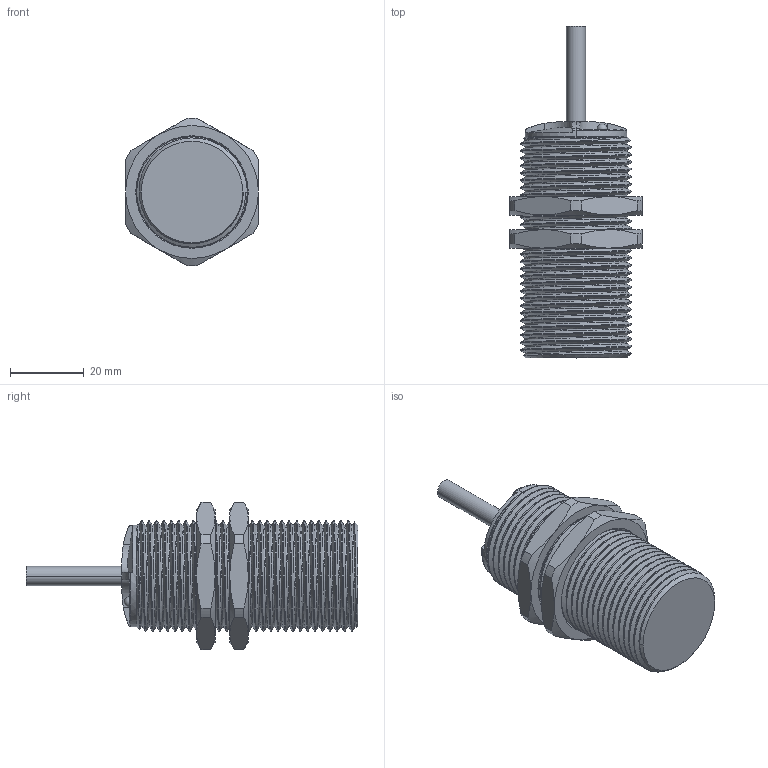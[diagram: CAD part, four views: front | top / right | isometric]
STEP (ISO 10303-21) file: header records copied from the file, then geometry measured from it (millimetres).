
FILE_DESCRIPTION (( 'STEP AP203' ), '1' );
FILE_NAME ('Bi-G30-X2-60.step', '2023-10-19T21:38:44', ( '' ), ( '' ), 'SwSTEP 2.0', 'SolidWorks 2019', '' );
FILE_SCHEMA (( 'CONFIG_CONTROL_DESIGN' ));
Length unit declared in the file: millimetre
Products named in the file (1): Bi-G30-X2-60
Bounding box: 36 x 90 x 39.99 mm (x, y, z)
Volume: 45195.7 mm3; surface area: 13193.4 mm2
Topology: 1 solids, 1 shells, 166 faces, 456 edges, 294 vertices
Faces by surface type: cylinder 82, cone 39, plane 31, torus 9, bspline 3, sphere 2
Entity records: 11516 total; most frequent: CARTESIAN_POINT 7760, ORIENTED_EDGE 902, DIRECTION 675, EDGE_CURVE 451, VERTEX_POINT 291, AXIS2_PLACEMENT_3D 279, EDGE_LOOP 174, FACE_OUTER_BOUND 166
